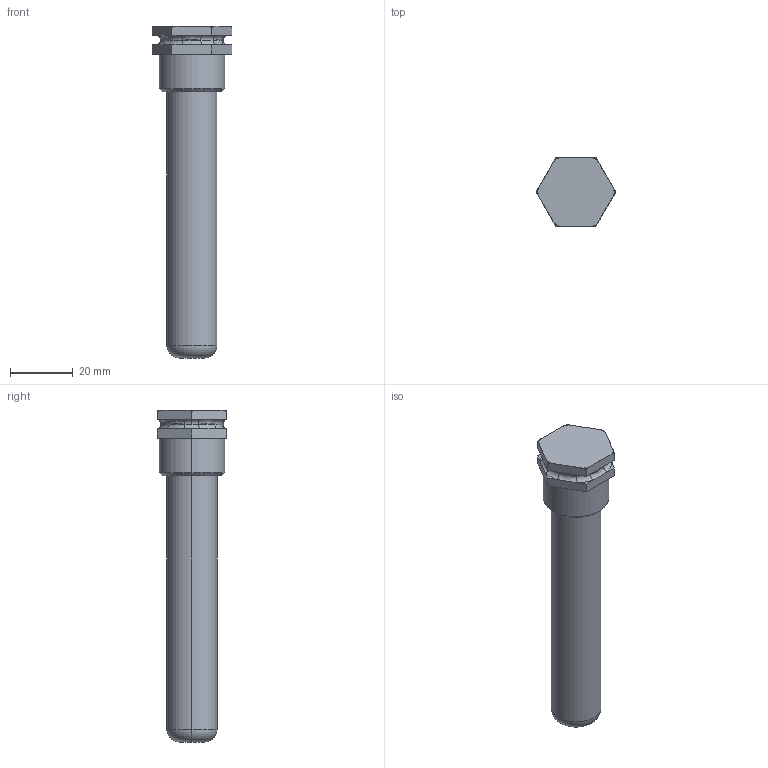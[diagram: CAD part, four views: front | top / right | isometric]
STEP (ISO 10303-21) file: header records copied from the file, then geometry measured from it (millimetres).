
FILE_DESCRIPTION (( 'STEP AP214' ), '1' );
FILE_NAME ('555034.STEP', '2022-03-15T10:52:36', ( '' ), ( '' ), 'SwSTEP 2.0', 'SolidWorks 2021', '' );
FILE_SCHEMA (( 'AUTOMOTIVE_DESIGN' ));
Length unit declared in the file: millimetre
Products named in the file (1): 555034
Bounding box: 25.4 x 22.03 x 106 mm (x, y, z)
Volume: 24557.4 mm3; surface area: 6545.2 mm2
Topology: 1 solids, 1 shells, 117 faces, 269 edges, 156 vertices
Faces by surface type: bspline 48, plane 28, cylinder 23, torus 16, cone 2
Entity records: 6886 total; most frequent: CARTESIAN_POINT 3294, ORIENTED_EDGE 538, DIRECTION 357, EDGE_CURVE 269, VERTEX_POINT 156, AXIS2_PLACEMENT_3D 139, B_SPLINE_CURVE_WITH_KNOTS 121, UNCERTAINTY_MEASURE_WITH_UNIT 120
